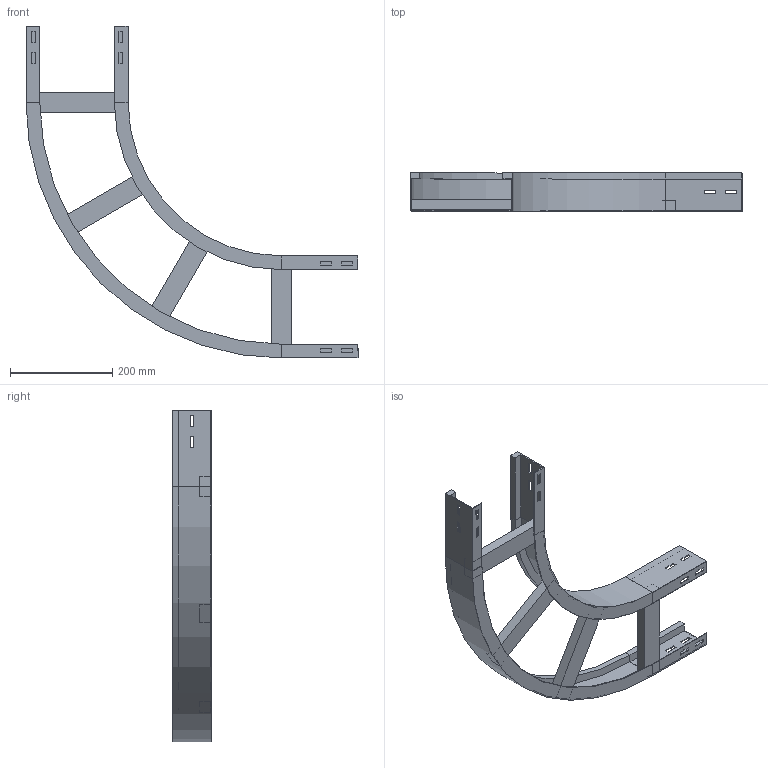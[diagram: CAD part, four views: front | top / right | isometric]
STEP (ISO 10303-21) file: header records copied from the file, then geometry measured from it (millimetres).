
FILE_DESCRIPTION (( 'STEP AP214' ), '1' );
FILE_NAME ('A2_10B3C200.step', '2025-02-21T15:26:15', ( '' ), ( '' ), 'SwSTEP 2.0', 'SolidWorks 2023', '' );
FILE_SCHEMA (( 'AUTOMOTIVE_DESIGN' ));
Length unit declared in the file: millimetre
Products named in the file (4): A2_10B3C200; A2_LONGH.ESTERNO 90°_H75_R300+200; A2_LONGH.INTERNO 90°_H75_R300; TRAVERSINO_200
Assembly tree (6 placements, depth 2):
  A2_10B3C200
    A2_LONGH.INTERNO 90°_H75_R300
    A2_LONGH.ESTERNO 90°_H75_R300+200
    TRAVERSINO_200  x4
Bounding box: 650 x 75 x 650 mm (x, y, z)
Volume: 1357913.7 mm3; surface area: 538006.3 mm2
Topology: 6 solids, 6 shells, 140 faces, 352 edges, 224 vertices
Faces by surface type: plane 132, cylinder 8
Entity records: 3829 total; most frequent: CARTESIAN_POINT 647, ORIENTED_EDGE 632, DIRECTION 594, EDGE_CURVE 316, VECTOR 300, LINE 300, VERTEX_POINT 200, EDGE_LOOP 154
